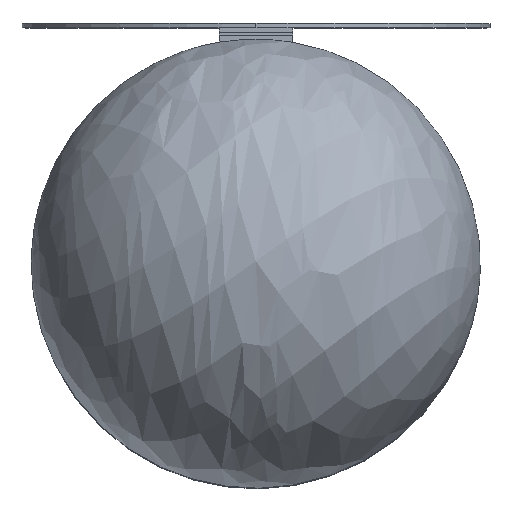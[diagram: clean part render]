
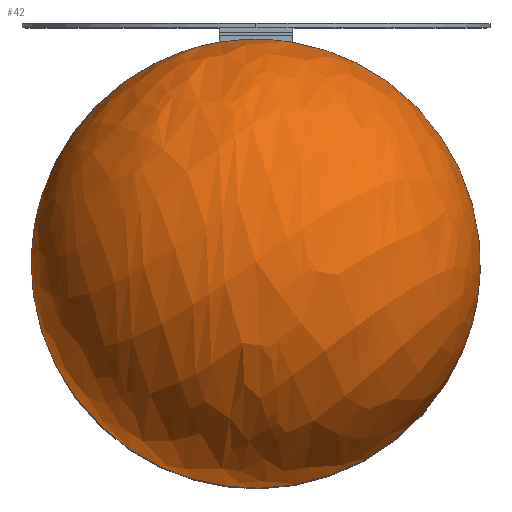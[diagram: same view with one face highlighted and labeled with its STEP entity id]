
A CAD part, top view. The second image highlights one B-rep face of the part: STEP entity #42.
In plain terms, the highlighted free-form (B-spline) face has degree [2, 2] with [5, 5] control points.
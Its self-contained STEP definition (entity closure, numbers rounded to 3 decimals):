
#42=ADVANCED_FACE('',(#73),#549,.T.);
#73=FACE_OUTER_BOUND('',#104,.T.);
#104=EDGE_LOOP('',(#236,#237,#238,#239));
#236=ORIENTED_EDGE('',*,*,#380,.T.);
#237=ORIENTED_EDGE('',*,*,#361,.F.);
#238=ORIENTED_EDGE('',*,*,#297,.F.);
#239=ORIENTED_EDGE('',*,*,#357,.F.);
#297=EDGE_CURVE('',#493,#492,#422,.T.);
#357=EDGE_CURVE('',#542,#493,#400,.T.);
#361=EDGE_CURVE('',#492,#543,#401,.T.);
#380=EDGE_CURVE('',#542,#543,#414,.T.);
#400=(
BOUNDED_CURVE()
B_SPLINE_CURVE(2,(#1127,#1128,#1129),.UNSPECIFIED.,.F.,.F.)
B_SPLINE_CURVE_WITH_KNOTS((3,3),(-120.554,-25.112),
 .UNSPECIFIED.)
CURVE()
GEOMETRIC_REPRESENTATION_ITEM()
RATIONAL_B_SPLINE_CURVE((1.,0.813,1.))
REPRESENTATION_ITEM('')
);
#401=(
BOUNDED_CURVE()
B_SPLINE_CURVE(2,(#1148,#1149,#1150),.UNSPECIFIED.,.F.,.F.)
B_SPLINE_CURVE_WITH_KNOTS((3,3),(0.,120.554),.UNSPECIFIED.)
CURVE()
GEOMETRIC_REPRESENTATION_ITEM()
RATIONAL_B_SPLINE_CURVE((1.,0.707,1.))
REPRESENTATION_ITEM('')
);
#414=(
BOUNDED_CURVE()
B_SPLINE_CURVE(2,(#1249,#1250,#1251,#1252,#1253),.UNSPECIFIED.,.F.,.F.)
B_SPLINE_CURVE_WITH_KNOTS((3,2,3),(-120.554,0.,120.554),
 .UNSPECIFIED.)
CURVE()
GEOMETRIC_REPRESENTATION_ITEM()
RATIONAL_B_SPLINE_CURVE((1.,0.707,1.,0.707,1.))
REPRESENTATION_ITEM('')
);
#422=B_SPLINE_CURVE_WITH_KNOTS('',3,(#908,#909,#910,#911,#912,#913,#914,
#915,#916,#917,#918,#919,#920,#921,#922,#923),.UNSPECIFIED.,.F.,.F.,(4,
2,2,2,2,2,2,4),(0.,6.28,12.559,18.839,21.978,
23.548,24.333,25.117),.UNSPECIFIED.);
#492=VERTEX_POINT('',#810);
#493=VERTEX_POINT('',#811);
#542=VERTEX_POINT('',#860);
#543=VERTEX_POINT('',#861);
#549=(
BOUNDED_SURFACE()
B_SPLINE_SURFACE(2,2,((#703,#704,#705,#706,#707),(#708,#709,#710,#711,#712),
(#713,#714,#715,#716,#717),(#718,#719,#720,#721,#722),(#723,#724,#725,#726,
#727)),.UNSPECIFIED.,.F.,.F.,.F.)
B_SPLINE_SURFACE_WITH_KNOTS((3,2,3),(3,2,3),(0.,120.554,241.108),
(-120.554,0.,120.554),.UNSPECIFIED.)
GEOMETRIC_REPRESENTATION_ITEM()
RATIONAL_B_SPLINE_SURFACE(((1.,0.707,1.,0.707,1.),
(0.707,0.5,0.707,0.5,0.707),(1.,0.707,
1.,0.707,1.),(0.707,0.5,0.707,0.5,0.707),
(1.,0.707,1.,0.707,1.)))
REPRESENTATION_ITEM('')
SURFACE()
);
#703=CARTESIAN_POINT('',(-75.762,9.825,78.084));
#704=CARTESIAN_POINT('',(-63.197,85.533,77.384));
#705=CARTESIAN_POINT('',(12.514,72.969,77.5));
#706=CARTESIAN_POINT('',(88.226,60.405,77.616));
#707=CARTESIAN_POINT('',(75.661,-15.303,78.316));
#708=CARTESIAN_POINT('',(-75.762,9.825,78.084));
#709=CARTESIAN_POINT('',(-63.197,86.242,154.128));
#710=CARTESIAN_POINT('',(12.514,73.679,154.244));
#711=CARTESIAN_POINT('',(88.226,61.115,154.36));
#712=CARTESIAN_POINT('',(75.661,-15.303,78.316));
#713=CARTESIAN_POINT('',(-75.762,9.825,78.084));
#714=CARTESIAN_POINT('',(-75.762,10.534,154.827));
#715=CARTESIAN_POINT('',(-0.05,-2.03,154.944));
#716=CARTESIAN_POINT('',(75.661,-14.594,155.06));
#717=CARTESIAN_POINT('',(75.661,-15.303,78.316));
#718=CARTESIAN_POINT('',(-75.762,9.825,78.084));
#719=CARTESIAN_POINT('',(-88.326,-65.174,155.527));
#720=CARTESIAN_POINT('',(-12.615,-77.738,155.644));
#721=CARTESIAN_POINT('',(63.097,-90.302,155.76));
#722=CARTESIAN_POINT('',(75.661,-15.303,78.316));
#723=CARTESIAN_POINT('',(-75.762,9.825,78.084));
#724=CARTESIAN_POINT('',(-88.326,-65.884,78.784));
#725=CARTESIAN_POINT('',(-12.615,-78.448,78.9));
#726=CARTESIAN_POINT('',(63.097,-91.011,79.016));
#727=CARTESIAN_POINT('',(75.661,-15.303,78.316));
#810=CARTESIAN_POINT('',(12.514,72.969,77.5));
#811=CARTESIAN_POINT('',(-12.486,72.99,77.5));
#860=CARTESIAN_POINT('',(-75.762,9.825,78.084));
#861=CARTESIAN_POINT('',(75.661,-15.303,78.316));
#908=CARTESIAN_POINT('',(-12.486,72.99,77.5));
#909=CARTESIAN_POINT('',(-10.421,73.329,77.5));
#910=CARTESIAN_POINT('',(-8.342,73.584,77.5));
#911=CARTESIAN_POINT('',(-4.17,73.922,77.5));
#912=CARTESIAN_POINT('',(-2.078,74.006,77.5));
#913=CARTESIAN_POINT('',(2.108,74.003,77.5));
#914=CARTESIAN_POINT('',(4.2,73.915,77.5));
#915=CARTESIAN_POINT('',(7.329,73.656,77.5));
#916=CARTESIAN_POINT('',(8.369,73.548,77.5));
#917=CARTESIAN_POINT('',(9.927,73.355,77.5));
#918=CARTESIAN_POINT('',(10.446,73.285,77.5));
#919=CARTESIAN_POINT('',(11.222,73.173,77.5));
#920=CARTESIAN_POINT('',(11.481,73.134,77.5));
#921=CARTESIAN_POINT('',(11.998,73.053,77.5));
#922=CARTESIAN_POINT('',(12.256,73.012,77.5));
#923=CARTESIAN_POINT('',(12.514,72.969,77.5));
#1127=CARTESIAN_POINT('',(-75.762,9.825,78.084));
#1128=CARTESIAN_POINT('',(-66.758,64.079,77.582));
#1129=CARTESIAN_POINT('',(-12.486,72.99,77.5));
#1148=CARTESIAN_POINT('',(12.514,72.969,77.5));
#1149=CARTESIAN_POINT('',(88.226,60.405,77.616));
#1150=CARTESIAN_POINT('',(75.661,-15.303,78.316));
#1249=CARTESIAN_POINT('',(-75.762,9.825,78.084));
#1250=CARTESIAN_POINT('',(-88.326,-65.884,78.784));
#1251=CARTESIAN_POINT('',(-12.615,-78.448,78.9));
#1252=CARTESIAN_POINT('',(63.097,-91.011,79.016));
#1253=CARTESIAN_POINT('',(75.661,-15.303,78.316));
